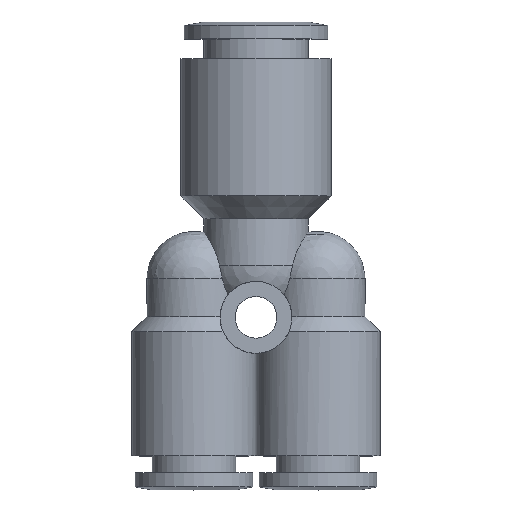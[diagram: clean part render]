
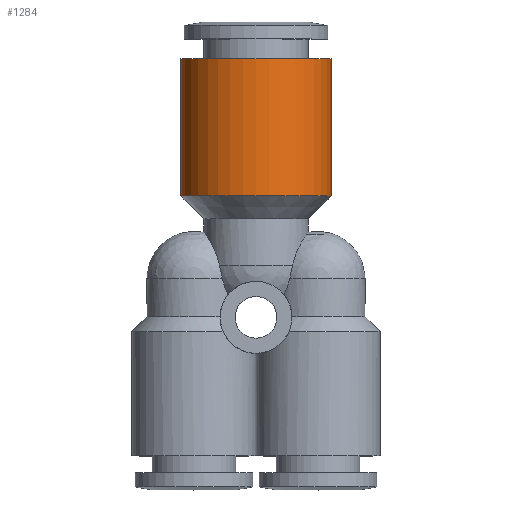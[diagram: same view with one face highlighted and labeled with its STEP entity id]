
A CAD part, top view. The second image highlights one B-rep face of the part: STEP entity #1284.
In plain terms, the highlighted cylindrical face has radius 5.75 mm (diameter 11.5 mm), a full revolution.
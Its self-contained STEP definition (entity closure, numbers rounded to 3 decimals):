
#1250=CARTESIAN_POINT('',(-5.75,9.3,0.0));
#1251=VERTEX_POINT('',#1250);
#1252=CARTESIAN_POINT('',(0.0,9.3,0.0));
#1253=DIRECTION('',(0.0,1.0,0.0));
#1254=DIRECTION('',(-1.0,0.0,0.0));
#1255=AXIS2_PLACEMENT_3D('',#1252,#1253,#1254);
#1256=CIRCLE('',#1255,5.75);
#1257=EDGE_CURVE('',#1251,#1251,#1256,.T.);
#1265=CARTESIAN_POINT('',(0.0,14.55,0.0));
#1266=DIRECTION('',(0.0,1.0,0.0));
#1267=DIRECTION('',(-1.0,0.0,0.0));
#1268=AXIS2_PLACEMENT_3D('',#1265,#1266,#1267);
#1269=CYLINDRICAL_SURFACE('',#1268,5.75);
#1270=CARTESIAN_POINT('',(-5.75,19.8,0.0));
#1271=VERTEX_POINT('',#1270);
#1272=CARTESIAN_POINT('',(0.0,19.8,0.0));
#1273=DIRECTION('',(0.0,1.0,0.0));
#1274=DIRECTION('',(-1.0,0.0,0.0));
#1275=AXIS2_PLACEMENT_3D('',#1272,#1273,#1274);
#1276=CIRCLE('',#1275,5.75);
#1277=EDGE_CURVE('',#1271,#1271,#1276,.T.);
#1278=ORIENTED_EDGE('',*,*,#1277,.F.);
#1279=EDGE_LOOP('',(#1278));
#1280=FACE_OUTER_BOUND('',#1279,.T.);
#1281=ORIENTED_EDGE('',*,*,#1257,.T.);
#1282=EDGE_LOOP('',(#1281));
#1283=FACE_BOUND('',#1282,.T.);
#1284=ADVANCED_FACE('',(#1280,#1283),#1269,.T.);
